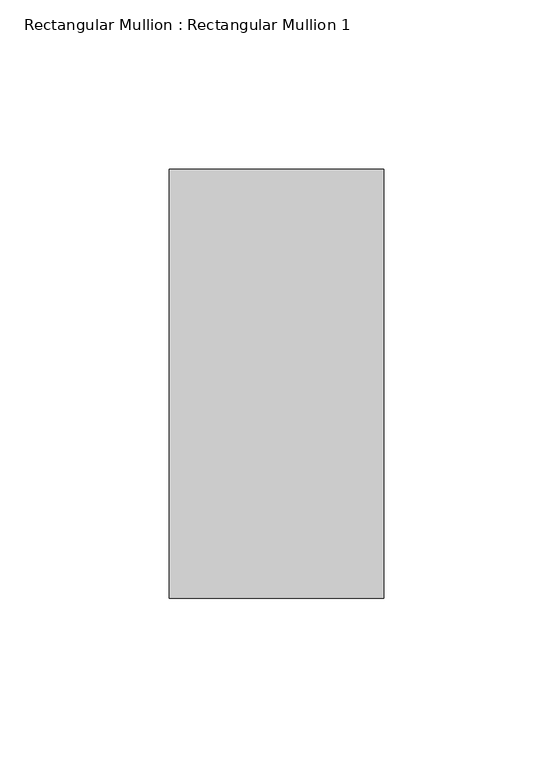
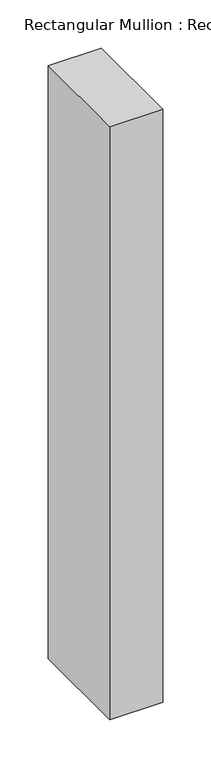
"""IFC4 building model written with IfcOpenShell, lengths in millimetres: member geometry, Rectangular Mullion : Rectangular Mullion 1."""

from ifc_helpers import new_model, si_unit, frame, origin, place, context, project, spatial, polyline, outline, extrude, source, transform, mapped, element, save


def rectangular_mullion_rectangular_mullion_1_e45695c4(model_context):
    return source(origin(), model_context, "Body", "SweptSolid", [
        extrude(outline(polyline([(0.0, 63.5), (0.0, -63.5), (-63.5, -63.5), (-63.5, 63.5), (0.0, 63.5)])), frame((0.0, 0.0, -750.0269791), z_axis=(0.0, 0.0, 1.0), x_axis=(1.0, 0.0, 0.0)), (0.0, 0.0, 1.0), 750.0269791),
    ])


if __name__ == "__main__":
    model = new_model("IFC4")
    model_context = context("Model", 3, world=origin())
    ifc_project = project(units=[si_unit("LENGTHUNIT", "METRE", prefix="MILLI")], contexts=[model_context])
    site = spatial("IfcSite", under=ifc_project)
    building = spatial("IfcBuilding", under=site)
    placement = place(None, origin())
    rectangular_mullion_rectangular_mullion_1_shape = rectangular_mullion_rectangular_mullion_1_e45695c4(model_context)
    element("IfcMember", 1, ObjectType="Rectangular Mullion : Rectangular Mullion 1", at=placement, inside=building, context=model_context, shape_type="MappedRepresentation", body=[
        mapped(rectangular_mullion_rectangular_mullion_1_shape, transform((0.0, 0.0, 0.0), x_axis=(1.0, 0.0, 0.0), y_axis=(0.0, 1.0, 0.0), z_axis=(0.0, 0.0, 1.0))),
    ])
    save(model, "model.ifc")
